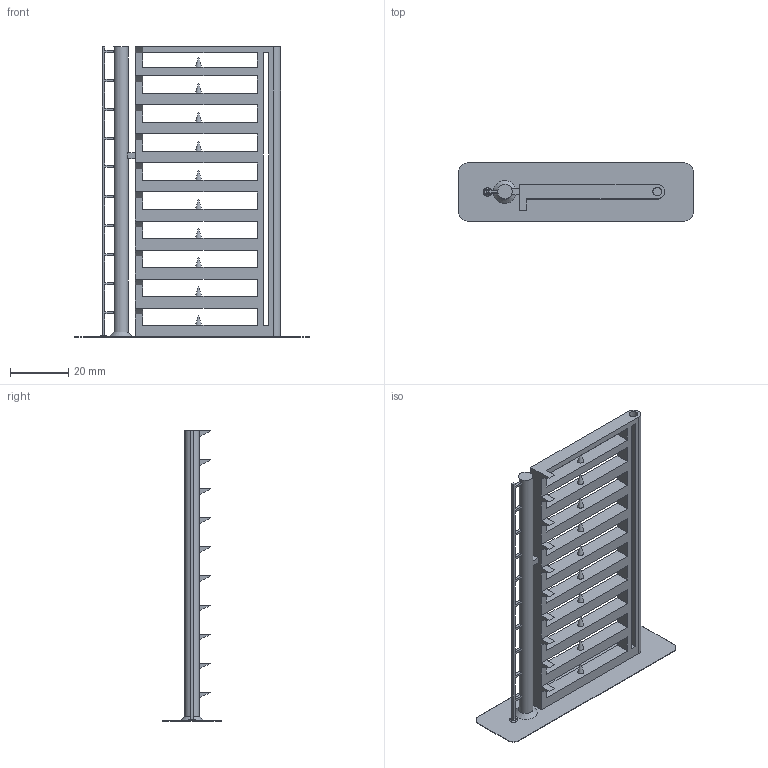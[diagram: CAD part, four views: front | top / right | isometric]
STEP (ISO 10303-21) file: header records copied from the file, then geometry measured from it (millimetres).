
FILE_DESCRIPTION(/* description */ (''),/* implementation_level */ '2;1');
FILE_NAME(/* name */ 'C:/Users/Greg/Desktop/Ultimate Print Fan Test Tower v2.step',/* time_stamp */ '2021-02-23T19:07:10-05:00',/* author */ (''),/* organization */ (''),/* preprocessor_version */ 'ST-DEVELOPER v18.1',/* originating_system */ 'Autodesk Translation Framework v9.7.1.1290',/* authorisation */ '');
FILE_SCHEMA (('AUTOMOTIVE_DESIGN { 1 0 10303 214 3 1 1 }'));
Length unit declared in the file: millimetre
Products named in the file (2): Ultimate Print Fan Test Tower; Component1
Assembly tree (1 placements, depth 2):
  Ultimate Print Fan Test Tower
    Component1
Bounding box: 81 x 20 x 100 mm (x, y, z)
Volume: 13952.5 mm3; surface area: 17777.6 mm2
Topology: 1 solids, 1 shells, 146 faces, 439 edges, 287 vertices
Faces by surface type: plane 117, cylinder 17, cone 12
Full cylindrical faces by diameter (mm): 3 x1, 5 x1
Entity records: 5033 total; most frequent: ORIENTED_EDGE 878, CARTESIAN_POINT 875, DIRECTION 818, EDGE_CURVE 439, LINE 358, VECTOR 358, VERTEX_POINT 287, AXIS2_PLACEMENT_3D 230
